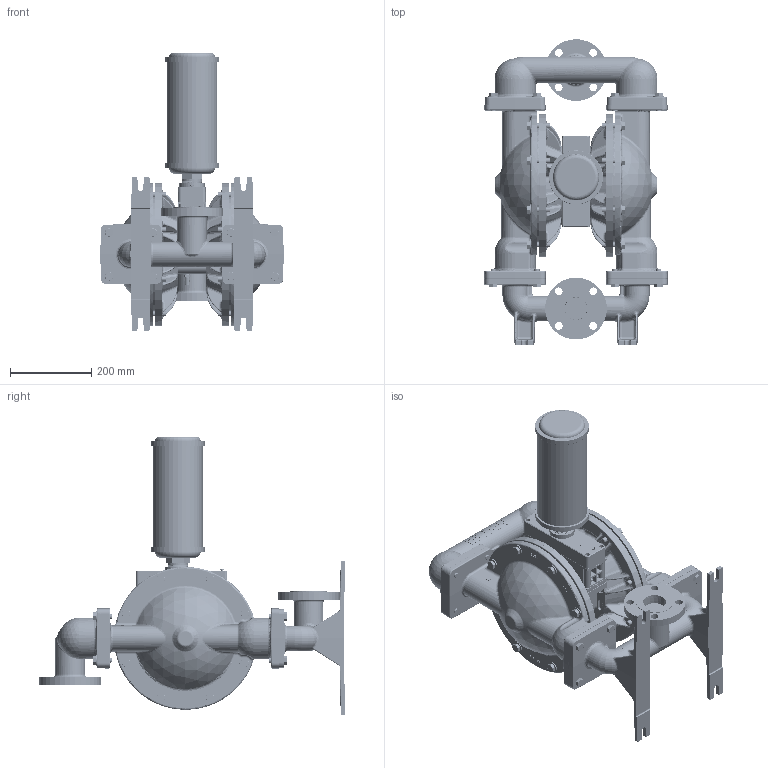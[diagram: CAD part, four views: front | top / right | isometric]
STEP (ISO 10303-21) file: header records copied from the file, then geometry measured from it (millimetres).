
FILE_DESCRIPTION (( 'STEP AP203' ), '1' );
FILE_NAME ('PS830_ADV_SS_ANSI.STEP', '2022-06-16T12:08:56', ( '' ), ( '' ), 'SwSTEP 2.0', 'SolidWorks 2019', '' );
FILE_SCHEMA (( 'CONFIG_CONTROL_DESIGN' ));
Length unit declared in the file: inch
Products named in the file (1): PS830_ADV_SS_ANSI
Bounding box: 452.41 x 754 x 687.2 mm (x, y, z)
Volume: 30240832.2 mm3; surface area: 1828280.3 mm2
Topology: 1 solids, 1 shells, 8402 faces, 21571 edges, 13512 vertices
Faces by surface type: plane 4700, bspline 1276, cylinder 1186, cone 518, torus 458, sphere 264
Entity records: 604917 total; most frequent: CARTESIAN_POINT 410332, ORIENTED_EDGE 43074, DIRECTION 36708, EDGE_CURVE 21537, VERTEX_POINT 13500, LINE 12980, VECTOR 12980, AXIS2_PLACEMENT_3D 11864
